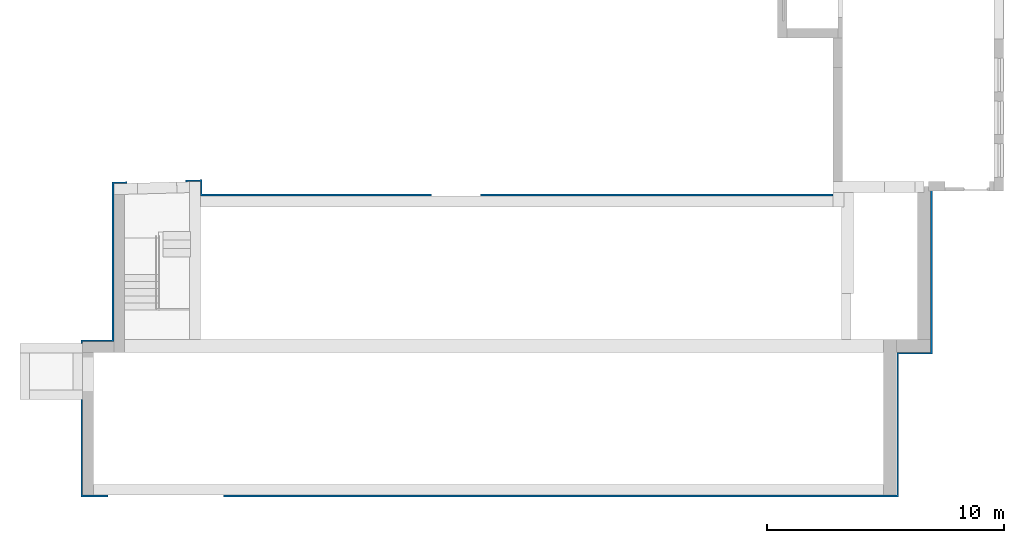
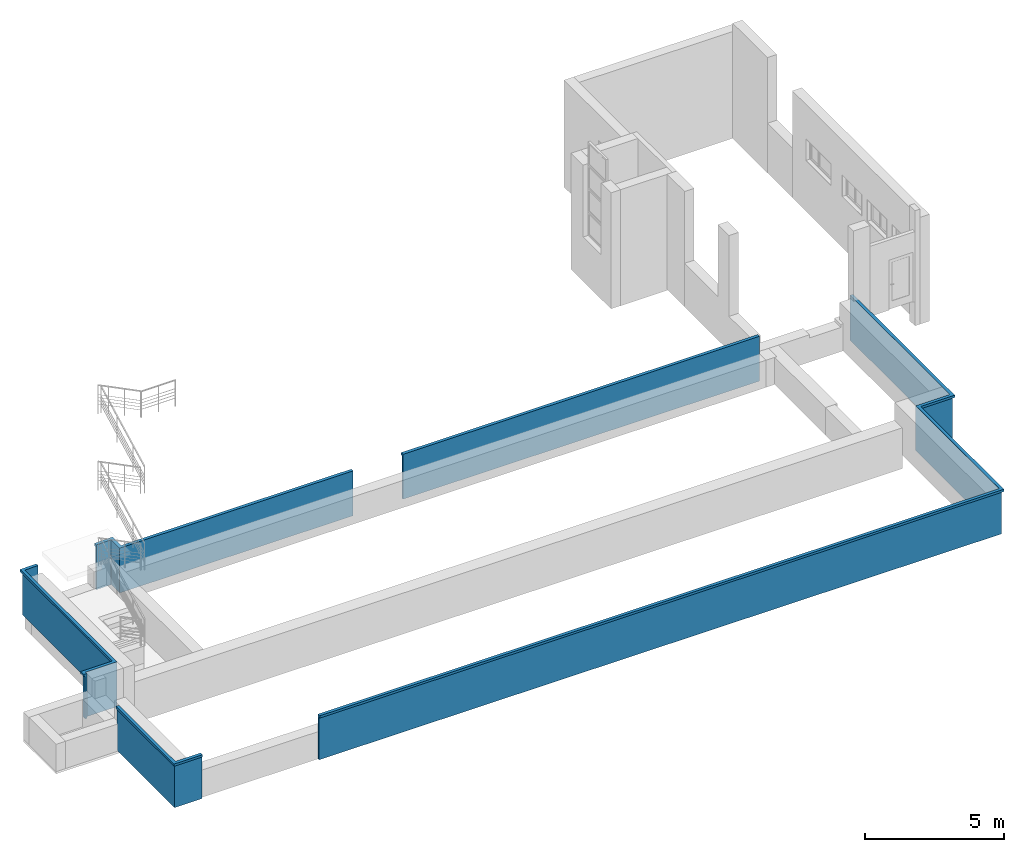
# One storey, part 5 of 6: 1 wall.
"""IFC2X3 building model written with IfcOpenShell, lengths in millimetres."""

from ifc_helpers import new_model, entity, si_unit, converted_unit, derived_unit, direction, frame, origin, place, context, subcontext, project, spatial, face_set, surface_model, material, type_object, element, save


model = new_model("IFC2X3")

# Units and contexts
model_context = context("Model", 3, precision=0.01, world=origin(), true_north=direction((6.12303176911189e-17, 1.0)))
body_context = subcontext(model_context, "Body", "Model", "MODEL_VIEW")
ifc_project = project(units=[si_unit("LENGTHUNIT", "METRE", prefix="MILLI"), si_unit("AREAUNIT", "SQUARE_METRE"), si_unit("VOLUMEUNIT", "CUBIC_METRE"), converted_unit("PLANEANGLEUNIT", "DEGREE", entity("IfcRatioMeasure", 0.0174532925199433), si_unit("PLANEANGLEUNIT", "RADIAN"), dimensions=[0, 0, 0, 0, 0, 0, 0]), si_unit("MASSUNIT", "GRAM", prefix="KILO"), derived_unit("MASSDENSITYUNIT", [(si_unit("MASSUNIT", "GRAM", prefix="KILO"), 1), (si_unit("LENGTHUNIT", "METRE"), -3)]), si_unit("TIMEUNIT", "SECOND"), si_unit("FREQUENCYUNIT", "HERTZ"), si_unit("THERMODYNAMICTEMPERATUREUNIT", "DEGREE_CELSIUS"), derived_unit("THERMALTRANSMITTANCEUNIT", [(si_unit("MASSUNIT", "GRAM", prefix="KILO"), 1), (si_unit("THERMODYNAMICTEMPERATUREUNIT", "KELVIN"), -1), (si_unit("TIMEUNIT", "SECOND"), -3)]), derived_unit("VOLUMETRICFLOWRATEUNIT", [(si_unit("LENGTHUNIT", "METRE"), 3), (si_unit("TIMEUNIT", "SECOND"), -1)]), si_unit("ELECTRICCURRENTUNIT", "AMPERE"), si_unit("ELECTRICVOLTAGEUNIT", "VOLT"), si_unit("POWERUNIT", "WATT"), si_unit("FORCEUNIT", "NEWTON", prefix="KILO"), si_unit("ILLUMINANCEUNIT", "LUX"), si_unit("LUMINOUSFLUXUNIT", "LUMEN"), si_unit("LUMINOUSINTENSITYUNIT", "CANDELA"), derived_unit("USERDEFINED", [(si_unit("MASSUNIT", "GRAM", prefix="KILO"), -1), (si_unit("LENGTHUNIT", "METRE"), -2), (si_unit("TIMEUNIT", "SECOND"), 3), (si_unit("LUMINOUSFLUXUNIT", "LUMEN"), 1)]), derived_unit("LINEARVELOCITYUNIT", [(si_unit("LENGTHUNIT", "METRE"), 1), (si_unit("TIMEUNIT", "SECOND"), -1)]), si_unit("PRESSUREUNIT", "PASCAL"), derived_unit("USERDEFINED", [(si_unit("LENGTHUNIT", "METRE"), -2), (si_unit("MASSUNIT", "GRAM", prefix="KILO"), 1), (si_unit("TIMEUNIT", "SECOND"), -2)])], contexts=[model_context])

# Site, building, storey
site_placement = place(None, frame((-151.875543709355, 2715.0, 0.0)))
site = spatial("IfcSite", under=ifc_project, at=site_placement, Name="Surface", CompositionType="ELEMENT")
building_placement = place(site_placement, origin())
building = spatial("IfcBuilding", under=site, at=building_placement, CompositionType="ELEMENT")
storey_placement = place(building_placement, frame((0.0, 0.0, -1200.0)))
storey = spatial("IfcBuildingStorey", under=building, at=storey_placement, Name="Vundament", CompositionType="ELEMENT", Elevation=-1199.99999999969)

# Wall
ifc_material = material(Name="Paint - Sand Beige")
wall_type = type_object("IfcWallType", Name="TALA - 009", PredefinedType="NOTDEFINED", material=ifc_material)
wall_placement = place(storey_placement, frame((-130.329568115, -130.095367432, 0.0)))
element("IfcWall", 1, at=wall_placement, inside=storey, type_object=wall_type, material=ifc_material, Name="TALA - 009:TALA - 009", ObjectType="TALA - 009:TALA - 009", context=body_context, shape_type="SurfaceModel", body=[
    surface_model("IfcFaceBasedSurfaceModel", [(60.2051136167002, 60.1016517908, 0.0), (1192.426612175, 60.0000002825, 0.0), (1192.426612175, 60.0000002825, 1874.90546009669), (60.2051136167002, 60.1016517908, 1874.90546009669), (1192.426612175, 60.0000002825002, 0.0), (60.2051136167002, 60.1016517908, 0.0), (60.2051136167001, 4201.154541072, 0.0), (130.205113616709, 4201.154541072, 0.0), (130.205113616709, 130.095367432, 0.0), (1192.432896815, 130.0, 0.0), (1192.42661217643, 60.0000002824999, 1874.90546009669), (1192.42661217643, 60.0000002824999, 0.0), (1192.43289681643, 130.0, 0.0), (1192.43289681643, 130.0, 1974.90546009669), (1192.42122534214, 5.24000249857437e-07, 1974.90546009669), (1192.42122534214, 5.24000249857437e-07, 1874.90546009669), (1192.421225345, 5.23999945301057e-07, 1874.90546009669), (0.205113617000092, 0.10703838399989, 1874.90546009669), (0.205113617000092, 4201.154541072, 1874.90546009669), (60.2051136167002, 4201.154541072, 1874.90546009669), (60.2051136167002, 60.1016517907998, 1874.90546009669), (1192.426612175, 60.0000002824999, 1874.90546009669), (60.2051136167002, 60.1016517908, 0.0), (60.2051136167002, 60.1016517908, 1874.90546009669), (60.2051136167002, 4201.154541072, 1874.90546009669), (60.2051136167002, 4201.154541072, 0.0), (130.205113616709, 4201.154541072, 0.0), (60.2051136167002, 4201.154541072, 0.0), (60.2051136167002, 4201.154541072, 1874.90546009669), (0.205113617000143, 4201.154541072, 1874.90546009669), (0.205113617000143, 4201.154541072, 1974.90546009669), (130.205113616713, 4201.154541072, 1974.90546009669), (130.205113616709, 130.095367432, 0.0), (130.205113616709, 4201.154541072, 0.0), (130.205113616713, 4201.154541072, 1974.90546009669), (130.205113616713, 130.095367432, 1974.90546009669), (1192.432896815, 130.0, 1974.90546009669), (1192.432896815, 130.0, 0.0), (130.205113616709, 130.095367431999, 0.0), (130.205113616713, 130.095367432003, 1974.90546009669), (0.20511361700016, 0.107038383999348, 1974.90546009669), (1192.421225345, 5.23999674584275e-07, 1974.90546009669), (1192.432896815, 130.0, 1974.90546009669), (130.205113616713, 130.095367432, 1974.90546009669), (130.205113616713, 4201.154541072, 1974.90546009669), (0.205113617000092, 4201.154541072, 1974.90546009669), (1192.421225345, 5.24000012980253e-07, 1874.90546009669), (1192.421225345, 5.24000012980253e-07, 1974.90546009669), (0.205113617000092, 0.107038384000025, 1974.90546009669), (0.20511361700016, 0.107038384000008, 1874.90546009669), (0.205113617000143, 0.10703838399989, 1874.90546009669), (0.205113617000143, 0.10703838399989, 1974.90546009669), (0.205113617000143, 4201.154541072, 1974.90546009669), (0.205113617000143, 4201.154541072, 1874.90546009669), (130.344134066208, 6511.915435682, 0.0), (130.205113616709, 6600.095367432, 0.0), (130.205113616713, 6600.095367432, 1974.90546009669), (130.344134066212, 6511.915435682, 1974.90546009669), (60.3442210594, 6511.805077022, 0.0), (60.0946678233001, 6670.095367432, 0.0), (1370.329568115, 6670.095367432, 0.0), (1370.329568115, 13320.842105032, 0.0), (1997.316323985, 13337.694344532, 0.0), (1999.197114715, 13267.719616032, 0.0), (1440.329568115, 13252.698294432, 0.0), (1440.329568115, 6600.095367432, 0.0), (130.205113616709, 6600.095367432, 0.0), (130.344134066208, 6511.915435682, 0.0), (130.205113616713, 6600.095367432, 1974.90546009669), (130.205113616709, 6600.095367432, 0.0), (1440.329568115, 6600.095367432, 0.0), (1440.329568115, 6600.095367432, 1974.90546009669), (0.344295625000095, 6511.710483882, 1974.90546009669), (130.344134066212, 6511.915435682, 1974.90546009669), (130.205113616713, 6600.095367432, 1974.90546009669), (1440.329568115, 6600.095367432, 1974.90546009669), (1440.329568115, 13252.698294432, 1974.90546009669), (1999.197114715, 13267.719616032, 1974.90546009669), (1995.704217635, 13397.672683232, 1974.90546009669), (1310.329568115, 13379.251085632, 1974.90546009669), (1310.329568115, 6730.095367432, 1974.90546009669), (0.0, 6730.095367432, 1974.90546009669), (0.344295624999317, 6511.71048388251, 1874.90546009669), (0.344295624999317, 6511.71048388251, 1974.90546009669), (130.344134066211, 6511.91543568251, 1974.90546009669), (130.344134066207, 6511.91543568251, 0.0), (60.3442210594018, 6511.80507702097, 0.0), (60.3442210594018, 6511.80507702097, 1874.90546009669), (60.3442210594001, 6511.805077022, 0.0), (60.3442210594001, 6511.805077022, 1874.90546009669), (60.0946678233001, 6670.095367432, 1874.90546009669), (60.0946678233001, 6670.095367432, 0.0), (60.0946678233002, 6670.095367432, 0.0), (60.0946678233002, 6670.095367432, 1874.90546009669), (1370.329568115, 6670.095367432, 1874.90546009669), (1370.329568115, 6670.095367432, 0.0), (1370.329568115, 6670.095367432, 0.0), (1370.329568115, 6670.095367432, 1874.90546009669), (1370.329568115, 13320.842105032, 1874.90546009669), (1370.329568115, 13320.842105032, 0.0), (1997.316323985, 13337.694344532, 0.0), (1370.329568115, 13320.842105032, 0.0), (1370.329568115, 13320.842105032, 1874.90546009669), (1997.316323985, 13337.694344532, 1874.90546009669), (1999.19711471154, 13267.7196160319, 1974.90546009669), (1999.19711471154, 13267.7196160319, 0.0), (1997.31632398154, 13337.6943445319, 0.0), (1997.31632398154, 13337.6943445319, 1874.90546009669), (1995.70421764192, 13397.6726832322, 1874.90546009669), (1995.70421764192, 13397.6726832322, 1974.90546009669), (1440.329568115, 13252.698294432, 0.0), (1999.197114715, 13267.719616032, 0.0), (1999.197114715, 13267.719616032, 1974.90546009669), (1440.329568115, 13252.698294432, 1974.90546009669), (1440.329568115, 6600.095367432, 1974.90546009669), (1440.329568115, 6600.095367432, 0.0), (1440.329568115, 13252.698294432, 0.0), (1440.329568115, 13252.698294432, 1974.90546009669), (1310.329568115, 13379.251085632, 1974.90546009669), (1995.704217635, 13397.672683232, 1974.90546009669), (1995.704217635, 13397.672683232, 1874.90546009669), (1310.329568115, 13379.251085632, 1874.90546009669), (1310.329568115, 6730.095367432, 1874.90546009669), (1310.329568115, 6730.095367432, 1974.90546009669), (1310.329568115, 13379.251085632, 1974.90546009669), (1310.329568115, 13379.251085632, 1874.90546009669), (0.0, 6730.095367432, 1874.90546009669), (0.0, 6730.095367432, 1974.90546009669), (1310.329568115, 6730.095367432, 1974.90546009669), (1310.329568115, 6730.095367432, 1874.90546009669), (0.344295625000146, 6511.710483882, 1874.90546009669), (0.344295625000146, 6511.710483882, 1974.90546009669), (0.0, 6730.095367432, 1974.90546009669), (0.0, 6730.095367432, 1874.90546009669), (60.3442210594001, 6511.805077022, 1874.90546009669), (0.344295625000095, 6511.710483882, 1874.90546009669), (0.0, 6730.095367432, 1874.90546009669), (1310.329568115, 6730.095367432, 1874.90546009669), (1310.329568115, 13379.251085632, 1874.90546009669), (1995.704217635, 13397.672683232, 1874.90546009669), (1997.316323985, 13337.694344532, 1874.90546009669), (1370.329568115, 13320.842105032, 1874.90546009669), (1370.329568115, 6670.095367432, 1874.90546009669), (60.0946678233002, 6670.095367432, 1874.90546009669), (4462.895009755, 13333.939239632, 1974.90546009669), (4462.895009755, 13333.939239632, 0.0), (5090.402718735, 13350.805481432, 0.0), (5090.402718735, 13350.805481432, 1974.90546009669), (4462.89500975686, 13333.9392396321, 0.0), (4462.89500975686, 13333.9392396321, 1974.90546009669), (4459.40211267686, 13463.8923068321, 1974.90546009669), (4459.40211267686, 13463.8923068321, 1874.90546009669), (4461.01421902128, 13403.9139681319, 1874.90546009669), (4461.01421902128, 13403.9139681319, 0.0), (5090.402718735, 13350.805481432, 0.0), (4462.895009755, 13333.939239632, 0.0), (4461.014219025, 13403.913968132, 0.0), (5160.394743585, 13422.712017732, 0.0), (5160.462692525, 12810.095367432, 0.0), (14817.900057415, 12810.095367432, 0.0), (14817.900057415, 12740.095367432, 0.0), (5090.470456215, 12740.095367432, 0.0), (5090.470456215, 12740.095367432, 1974.90546009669), (5090.402718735, 13350.805481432, 1974.90546009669), (5090.402718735, 13350.805481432, 0.0), (5090.470456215, 12740.095367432, 0.0), (5090.402718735, 13350.805481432, 1974.90546009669), (5090.470456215, 12740.095367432, 1974.90546009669), (14817.900057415, 12740.095367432, 1974.90546009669), (14817.900057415, 12870.095367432, 1974.90546009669), (5220.456037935, 12870.095367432, 1974.90546009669), (5220.387907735, 13484.346191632, 1974.90546009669), (4459.402112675, 13463.892306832, 1974.90546009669), (4462.895009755, 13333.939239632, 1974.90546009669), (5220.387907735, 13484.346191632, 1874.90546009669), (4459.402112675, 13463.892306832, 1874.90546009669), (4459.402112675, 13463.892306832, 1974.90546009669), (5220.387907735, 13484.346191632, 1974.90546009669), (4461.014219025, 13403.913968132, 1874.90546009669), (4459.402112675, 13463.892306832, 1874.90546009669), (5220.387907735, 13484.346191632, 1874.90546009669), (5220.456037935, 12870.095367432, 1874.90546009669), (14817.900057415, 12870.095367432, 1874.90546009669), (14817.900057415, 12810.095367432, 1874.90546009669), (5160.462692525, 12810.095367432, 1874.90546009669), (5160.394743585, 13422.712017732, 1874.90546009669), (5160.394743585, 13422.712017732, 0.0), (4461.014219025, 13403.913968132, 0.0), (4461.014219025, 13403.913968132, 1874.90546009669), (5160.394743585, 13422.712017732, 1874.90546009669), (5160.462692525, 12810.095367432, 1874.90546009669), (5160.462692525, 12810.095367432, 0.0), (5160.394743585, 13422.712017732, 0.0), (5160.394743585, 13422.712017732, 1874.90546009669), (14817.900057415, 12810.095367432, 0.0), (5160.462692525, 12810.095367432, 0.0), (5160.462692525, 12810.095367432, 1874.90546009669), (14817.900057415, 12810.095367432, 1874.90546009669), (14817.900057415, 12740.095367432, 0.0), (14817.900057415, 12810.095367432, 0.0), (14817.900057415, 12810.095367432, 1874.90546009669), (14817.900057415, 12870.095367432, 1874.90546009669), (14817.900057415, 12870.095367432, 1974.90546009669), (14817.900057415, 12740.095367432, 1974.90546009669), (5090.470456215, 12740.095367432, 1974.90546009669), (5090.470456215, 12740.095367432, 0.0), (14817.900057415, 12740.095367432, 0.0), (14817.900057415, 12740.095367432, 1974.90546009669), (5220.456037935, 12870.095367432, 1974.90546009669), (14817.900057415, 12870.095367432, 1974.90546009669), (14817.900057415, 12870.095367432, 1874.90546009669), (5220.456037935, 12870.095367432, 1874.90546009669), (5220.456037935, 12870.095367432, 1874.90546009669), (5220.387907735, 13484.346191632, 1874.90546009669), (5220.387907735, 13484.346191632, 1974.90546009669), (5220.456037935, 12870.095367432, 1974.90546009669), (31731.945836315, 12740.095367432, 0.0), (16890.162130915, 12740.095367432, 0.0), (16890.162130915, 12810.095367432, 0.0), (31731.945836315, 12810.095367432, 0.0), (16890.162130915, 12740.095367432, 0.0), (31731.945836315, 12740.095367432, 0.0), (31731.945836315, 12740.095367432, 1974.90546009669), (16890.162130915, 12740.095367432, 1974.90546009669), (16890.162130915, 12740.095367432, 0.0), (16890.162130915, 12740.095367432, 1974.90546009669), (16890.162130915, 12870.095367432, 1974.90546009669), (16890.162130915, 12870.095367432, 1874.90546009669), (16890.162130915, 12810.095367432, 1874.90546009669), (16890.162130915, 12810.095367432, 0.0), (31731.945836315, 12810.095367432, 0.0), (16890.162130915, 12810.095367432, 0.0), (16890.162130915, 12810.095367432, 1874.90546009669), (31731.945836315, 12810.095367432, 1874.90546009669), (31731.945836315, 12740.095367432, 1974.90546009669), (31731.945836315, 12740.095367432, 0.0), (31731.945836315, 12810.095367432, 0.0), (31731.945836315, 12810.095367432, 1874.90546009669), (31731.945836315, 12870.095367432, 1874.90546009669), (31731.945836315, 12870.095367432, 1974.90546009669), (16890.162130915, 12740.095367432, 1974.90546009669), (31731.945836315, 12740.095367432, 1974.90546009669), (31731.945836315, 12870.095367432, 1974.90546009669), (16890.162130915, 12870.095367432, 1974.90546009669), (16890.162130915, 12870.095367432, 1874.90546009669), (16890.162130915, 12870.095367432, 1974.90546009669), (31731.945836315, 12870.095367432, 1974.90546009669), (31731.945836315, 12870.095367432, 1874.90546009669), (16890.162130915, 12810.095367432, 1874.90546009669), (16890.162130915, 12870.095367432, 1874.90546009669), (31731.945836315, 12870.095367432, 1874.90546009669), (31731.945836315, 12810.095367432, 1874.90546009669), (6072.432896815, 130.0, 0.0), (6072.432896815, 60.0, 0.0), (6072.432896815, 60.0, 1874.90546009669), (6072.432896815, 0.0, 1874.90546009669), (6072.432896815, 0.0, 1974.90546009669), (6072.432896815, 130.0, 1974.90546009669), (6072.432896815, 60.0, 0.0), (6072.432896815, 130.0, 0.0), (34431.945836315, 130.0, 0.0), (34431.945836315, 6140.095367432, 0.0), (35851.945836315, 6140.095367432, 0.0), (35851.945836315, 13340.095367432, 0.0), (35921.945836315, 13340.095367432, 0.0), (35921.945836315, 6070.095367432, 0.0), (34501.945836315, 6070.095367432, 0.0), (34501.945836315, 60.0, 0.0), (6072.432896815, 60.0, 1874.90546009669), (6072.432896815, 60.0, 0.0), (34501.945836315, 60.0, 0.0), (34501.945836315, 60.0, 1874.90546009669), (6072.432896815, 0.0, 1874.90546009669), (6072.432896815, 60.0, 1874.90546009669), (34501.945836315, 60.0, 1874.90546009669), (34501.945836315, 6070.095367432, 1874.90546009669), (35921.945836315, 6070.095367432, 1874.90546009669), (35921.945836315, 13340.095367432, 1874.90546009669), (35981.945836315, 13340.095367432, 1874.90546009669), (35981.945836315, 6010.095367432, 1874.90546009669), (34561.945836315, 6010.095367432, 1874.90546009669), (34561.945836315, 0.0, 1874.90546009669), (6072.432896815, 0.0, 1974.90546009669), (6072.432896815, 0.0, 1874.90546009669), (34561.945836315, 0.0, 1874.90546009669), (34561.945836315, 0.0, 1974.90546009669), (6072.432896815, 130.0, 1974.90546009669), (6072.432896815, 0.0, 1974.90546009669), (34561.945836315, 0.0, 1974.90546009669), (34561.945836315, 6010.095367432, 1974.90546009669), (35981.945836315, 6010.095367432, 1974.90546009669), (35981.945836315, 13340.095367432, 1974.90546009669), (35851.945836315, 13340.095367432, 1974.90546009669), (35851.945836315, 6140.095367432, 1974.90546009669), (34431.945836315, 6140.095367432, 1974.90546009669), (34431.945836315, 130.0, 1974.90546009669), (6072.432896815, 130.0, 0.0), (6072.432896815, 130.0, 1974.90546009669), (34431.945836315, 130.0, 1974.90546009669), (34431.945836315, 130.0, 0.0), (34431.945836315, 130.0, 0.0), (34431.945836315, 130.0, 1974.90546009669), (34431.945836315, 6140.095367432, 1974.90546009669), (34431.945836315, 6140.095367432, 0.0), (35851.945836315, 6140.095367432, 0.0), (34431.945836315, 6140.095367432, 0.0), (34431.945836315, 6140.095367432, 1974.90546009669), (35851.945836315, 6140.095367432, 1974.90546009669), (35851.945836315, 6140.095367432, 0.0), (35851.945836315, 6140.095367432, 1974.90546009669), (35851.945836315, 13340.095367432, 1974.90546009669), (35851.945836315, 13340.095367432, 0.0), (35921.945836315, 13340.095367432, 0.0), (35851.945836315, 13340.095367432, 0.0), (35851.945836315, 13340.095367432, 1974.90546009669), (35981.945836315, 13340.095367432, 1974.90546009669), (35981.945836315, 13340.095367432, 1874.90546009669), (35921.945836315, 13340.095367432, 1874.90546009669), (35921.945836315, 6070.095367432, 1874.90546009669), (35921.945836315, 6070.095367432, 0.0), (35921.945836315, 13340.095367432, 0.0), (35921.945836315, 13340.095367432, 1874.90546009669), (34501.945836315, 6070.095367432, 0.0), (35921.945836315, 6070.095367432, 0.0), (35921.945836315, 6070.095367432, 1874.90546009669), (34501.945836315, 6070.095367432, 1874.90546009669), (34501.945836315, 60.0, 1874.90546009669), (34501.945836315, 60.0, 0.0), (34501.945836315, 6070.095367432, 0.0), (34501.945836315, 6070.095367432, 1874.90546009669), (35981.945836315, 6010.095367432, 1974.90546009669), (35981.945836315, 6010.095367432, 1874.90546009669), (35981.945836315, 13340.095367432, 1874.90546009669), (35981.945836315, 13340.095367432, 1974.90546009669), (34561.945836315, 6010.095367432, 1974.90546009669), (34561.945836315, 6010.095367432, 1874.90546009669), (35981.945836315, 6010.095367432, 1874.90546009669), (35981.945836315, 6010.095367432, 1974.90546009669), (34561.945836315, 0.0, 1974.90546009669), (34561.945836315, 0.0, 1874.90546009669), (34561.945836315, 6010.095367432, 1874.90546009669), (34561.945836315, 6010.095367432, 1974.90546009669)], [face_set([[[0, 1, 2, 3]]]), face_set([[[4, 5, 6, 7, 8, 9]]]), face_set([[[10, 11, 12, 13, 14, 15]]]), face_set([[[16, 17, 18, 19, 20, 21]]]), face_set([[[22, 23, 24, 25]]]), face_set([[[26, 27, 28, 29, 30, 31]]]), face_set([[[32, 33, 34, 35]]]), face_set([[[36, 37, 38, 39]]]), face_set([[[40, 41, 42, 43, 44, 45]]]), face_set([[[46, 47, 48, 49]]]), face_set([[[50, 51, 52, 53]]]), face_set([[[54, 55, 56, 57]]]), face_set([[[58, 59, 60, 61, 62, 63, 64, 65, 66, 67]]]), face_set([[[68, 69, 70, 71]]]), face_set([[[72, 73, 74, 75, 76, 77, 78, 79, 80, 81]]]), face_set([[[82, 83, 84, 85, 86, 87]]]), face_set([[[88, 89, 90, 91]]]), face_set([[[92, 93, 94, 95]]]), face_set([[[96, 97, 98, 99]]]), face_set([[[100, 101, 102, 103]]]), face_set([[[104, 105, 106, 107, 108, 109]]]), face_set([[[110, 111, 112, 113]]]), face_set([[[114, 115, 116, 117]]]), face_set([[[118, 119, 120, 121]]]), face_set([[[122, 123, 124, 125]]]), face_set([[[126, 127, 128, 129]]]), face_set([[[130, 131, 132, 133]]]), face_set([[[134, 135, 136, 137, 138, 139, 140, 141, 142, 143]]]), face_set([[[144, 145, 146, 147]]]), face_set([[[148, 149, 150, 151, 152, 153]]]), face_set([[[154, 155, 156, 157, 158, 159, 160, 161]]]), face_set([[[162, 163, 164, 165]]]), face_set([[[166, 167, 168, 169, 170, 171, 172, 173]]]), face_set([[[174, 175, 176, 177]]]), face_set([[[178, 179, 180, 181, 182, 183, 184, 185]]]), face_set([[[186, 187, 188, 189]]]), face_set([[[190, 191, 192, 193]]]), face_set([[[194, 195, 196, 197]]]), face_set([[[198, 199, 200, 201, 202, 203]]]), face_set([[[204, 205, 206, 207]]]), face_set([[[208, 209, 210, 211]]]), face_set([[[212, 213, 214, 215]]]), face_set([[[216, 217, 218, 219]]]), face_set([[[220, 221, 222, 223]]]), face_set([[[224, 225, 226, 227, 228, 229]]]), face_set([[[230, 231, 232, 233]]]), face_set([[[234, 235, 236, 237, 238, 239]]]), face_set([[[240, 241, 242, 243]]]), face_set([[[244, 245, 246, 247]]]), face_set([[[248, 249, 250, 251]]]), face_set([[[252, 253, 254, 255, 256, 257]]]), face_set([[[258, 259, 260, 261, 262, 263, 264, 265, 266, 267]]]), face_set([[[268, 269, 270, 271]]]), face_set([[[272, 273, 274, 275, 276, 277, 278, 279, 280, 281]]]), face_set([[[282, 283, 284, 285]]]), face_set([[[286, 287, 288, 289, 290, 291, 292, 293, 294, 295]]]), face_set([[[296, 297, 298, 299]]]), face_set([[[300, 301, 302, 303]]]), face_set([[[304, 305, 306, 307]]]), face_set([[[308, 309, 310, 311]]]), face_set([[[312, 313, 314, 315, 316, 317]]]), face_set([[[318, 319, 320, 321]]]), face_set([[[322, 323, 324, 325]]]), face_set([[[326, 327, 328, 329]]]), face_set([[[330, 331, 332, 333]]]), face_set([[[334, 335, 336, 337]]]), face_set([[[338, 339, 340, 341]]])]),
])

save(model, "model.ifc")
